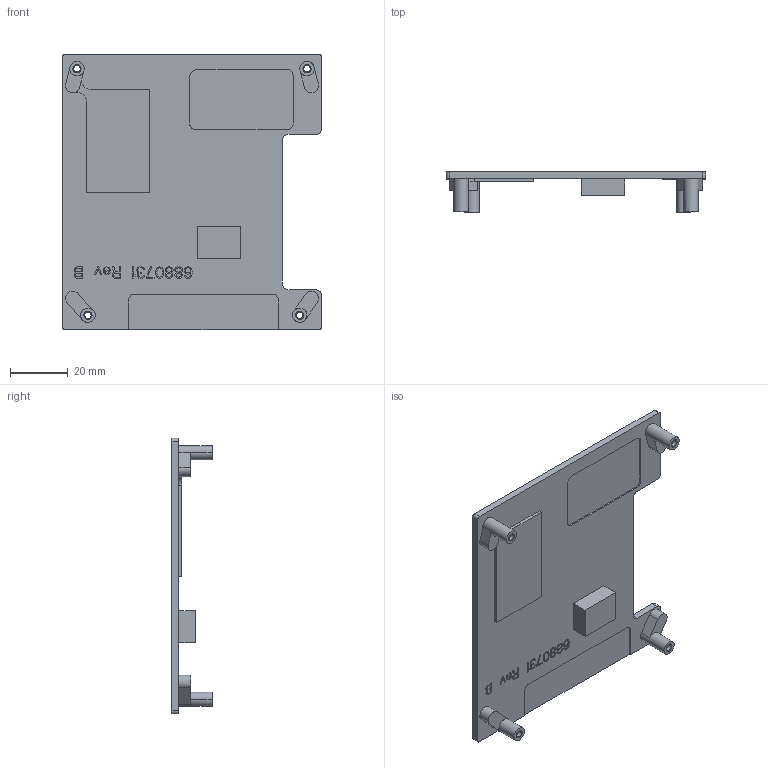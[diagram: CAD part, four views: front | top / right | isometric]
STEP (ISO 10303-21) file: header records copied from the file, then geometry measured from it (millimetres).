
FILE_DESCRIPTION((''),'2;1');
FILE_NAME('6880731_REVB','2019-02-01T',('user'),(''),'PRO/ENGINEER BY PARAMETRIC TECHNOLOGY CORPORATION, 2012130','PRO/ENGINEER BY PARAMETRIC TECHNOLOGY CORPORATION, 2012130','');
FILE_SCHEMA(('CONFIG_CONTROL_DESIGN'));
Length unit declared in the file: millimetre
Products named in the file (1): 6880731_REVB
Bounding box: 90.17 x 14 x 95.89 mm (x, y, z)
Volume: 21328.5 mm3; surface area: 19172.1 mm2
Topology: 1 solids, 9 shells, 564 faces, 1588 edges, 1057 vertices
Faces by surface type: plane 496, cylinder 60, cone 8
Entity records: 17955 total; most frequent: CARTESIAN_POINT 3202, ORIENTED_EDGE 3128, DIRECTION 2854, EDGE_CURVE 1580, VECTOR 1436, LINE 1436, VERTEX_POINT 1057, AXIS2_PLACEMENT_3D 709
